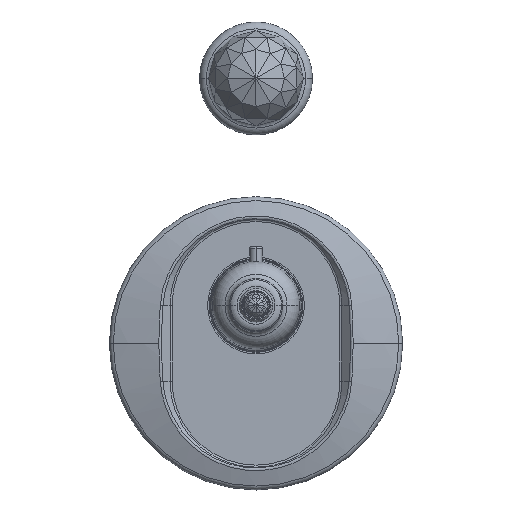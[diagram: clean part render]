
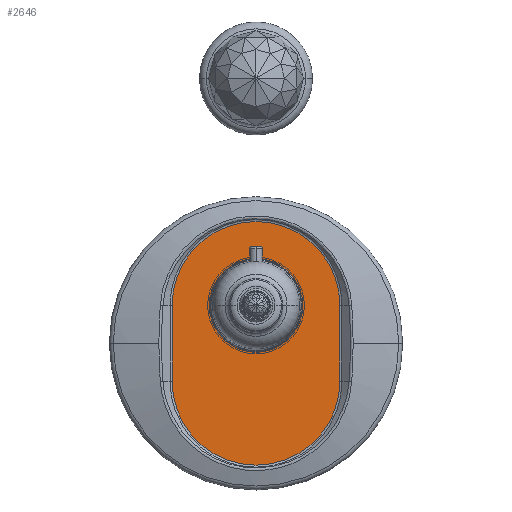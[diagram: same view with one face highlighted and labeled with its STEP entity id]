
A CAD part, top view. The second image highlights one B-rep face of the part: STEP entity #2646.
In plain terms, the highlighted planar face has unit normal (0, 0, 1).
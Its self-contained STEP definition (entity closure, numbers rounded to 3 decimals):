
#1106=DIRECTION('',(0.,-1.,0.));
#1107=VECTOR('',#1106,40.);
#1108=CARTESIAN_POINT('',(-44.379,0.,18.5));
#1109=LINE('',#1108,#1107);
#1110=CARTESIAN_POINT('',(0.,0.,18.5));
#1111=DIRECTION('',(0.,0.,1.));
#1112=DIRECTION('',(1.,0.,0.));
#1113=AXIS2_PLACEMENT_3D('',#1110,#1111,#1112);
#1115=DIRECTION('',(0.,1.,0.));
#1116=VECTOR('',#1115,40.);
#1117=CARTESIAN_POINT('',(44.379,-40.,18.5));
#1118=LINE('',#1117,#1116);
#1119=CARTESIAN_POINT('',(0.,-40.,18.5));
#1120=DIRECTION('',(0.,0.,1.));
#1121=DIRECTION('',(-1.,0.,0.));
#1122=AXIS2_PLACEMENT_3D('',#1119,#1120,#1121);
#1124=CARTESIAN_POINT('',(0.,0.,18.5));
#1125=DIRECTION('',(0.,0.,1.));
#1126=DIRECTION('',(-1.,0.,0.));
#1127=AXIS2_PLACEMENT_3D('',#1124,#1125,#1126);
#1134=CARTESIAN_POINT('',(0.,0.,18.5));
#1135=DIRECTION('',(0.,0.,1.));
#1136=DIRECTION('',(1.,0.,0.));
#1137=AXIS2_PLACEMENT_3D('',#1134,#1135,#1136);
#1675=CARTESIAN_POINT('',(-44.379,0.,18.5));
#1676=CARTESIAN_POINT('',(-44.379,-40.,18.5));
#1677=VERTEX_POINT('',#1675);
#1678=VERTEX_POINT('',#1676);
#1681=CARTESIAN_POINT('',(44.379,-40.,18.5));
#1682=VERTEX_POINT('',#1681);
#1685=CARTESIAN_POINT('',(44.379,0.,18.5));
#1686=VERTEX_POINT('',#1685);
#1767=CARTESIAN_POINT('',(-23.9,0.,18.5));
#1768=CARTESIAN_POINT('',(23.9,0.,18.5));
#1769=VERTEX_POINT('',#1767);
#1770=VERTEX_POINT('',#1768);
#2629=CARTESIAN_POINT('',(-45.,0.,18.5));
#2630=DIRECTION('',(0.,0.,-1.));
#2631=DIRECTION('',(1.,0.,0.));
#2632=AXIS2_PLACEMENT_3D('',#2629,#2630,#2631);
#2633=PLANE('',#2632);
#2634=ORIENTED_EDGE('',*,*,#2583,.F.);
#2635=ORIENTED_EDGE('',*,*,#2597,.F.);
#2636=ORIENTED_EDGE('',*,*,#2611,.F.);
#2637=ORIENTED_EDGE('',*,*,#2568,.F.);
#2638=EDGE_LOOP('',(#2634,#2635,#2636,#2637));
#2639=FACE_OUTER_BOUND('',#2638,.F.);
#2641=ORIENTED_EDGE('',*,*,#2640,.T.);
#2643=ORIENTED_EDGE('',*,*,#2642,.T.);
#2644=EDGE_LOOP('',(#2641,#2643));
#2645=FACE_BOUND('',#2644,.F.);
#2646=ADVANCED_FACE('',(#2639,#2645),#2633,.F.);
#1114=CIRCLE('',#1113,44.379);
#1123=CIRCLE('',#1122,44.379);
#1128=CIRCLE('',#1127,23.9);
#1138=CIRCLE('',#1137,23.9);
#2568=EDGE_CURVE('',#1678,#1682,#1123,.T.);
#2583=EDGE_CURVE('',#1677,#1678,#1109,.T.);
#2597=EDGE_CURVE('',#1686,#1677,#1114,.T.);
#2611=EDGE_CURVE('',#1682,#1686,#1118,.T.);
#2640=EDGE_CURVE('',#1769,#1770,#1128,.T.);
#2642=EDGE_CURVE('',#1770,#1769,#1138,.T.);
